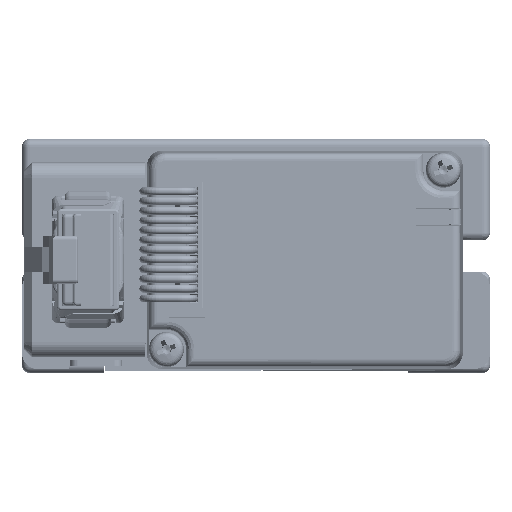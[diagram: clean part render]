
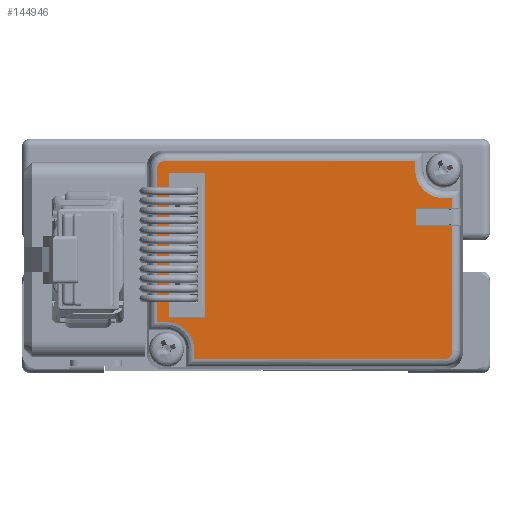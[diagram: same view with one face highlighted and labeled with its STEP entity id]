
A CAD part, front view. The second image highlights one B-rep face of the part: STEP entity #144946.
In plain terms, the highlighted planar face has unit normal (0, -1, 0) as drawn and (1, 0, 0) by its records, which use the part's own axes.
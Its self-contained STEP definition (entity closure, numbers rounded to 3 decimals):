
#643=(
BOUNDED_CURVE()
B_SPLINE_CURVE(3,(#287289,#287290,#287291,#287292),.UNSPECIFIED.,.F.,.F.)
B_SPLINE_CURVE_WITH_KNOTS((4,4),(2.357,3.927),
 .UNSPECIFIED.)
CURVE()
GEOMETRIC_REPRESENTATION_ITEM()
RATIONAL_B_SPLINE_CURVE((1.,0.805,0.805,1.))
REPRESENTATION_ITEM('')
);
#644=(
BOUNDED_CURVE()
B_SPLINE_CURVE(3,(#287398,#287399,#287400,#287401),.UNSPECIFIED.,.F.,.F.)
B_SPLINE_CURVE_WITH_KNOTS((4,4),(2.357,3.927),
 .UNSPECIFIED.)
CURVE()
GEOMETRIC_REPRESENTATION_ITEM()
RATIONAL_B_SPLINE_CURVE((1.,0.805,0.805,1.))
REPRESENTATION_ITEM('')
);
#6125=PLANE('',#185115);
#18112=LINE('',#287186,#34726);
#18114=LINE('',#287236,#34728);
#18116=LINE('',#287242,#34730);
#18118=LINE('',#287298,#34732);
#18120=LINE('',#287304,#34734);
#18122=LINE('',#287345,#34736);
#18124=LINE('',#287351,#34738);
#18126=LINE('',#287407,#34740);
#18128=LINE('',#287416,#34742);
#18200=LINE('',#287677,#34814);
#18206=LINE('',#287687,#34820);
#18210=LINE('',#287695,#34824);
#18213=LINE('',#287701,#34827);
#18216=LINE('',#287707,#34830);
#18219=LINE('',#287713,#34833);
#18222=LINE('',#287719,#34836);
#34726=VECTOR('',#210062,1000.);
#34728=VECTOR('',#210072,1000.);
#34730=VECTOR('',#210078,1000.);
#34732=VECTOR('',#210086,1000.);
#34734=VECTOR('',#210092,1000.);
#34736=VECTOR('',#210104,1000.);
#34738=VECTOR('',#210110,1000.);
#34740=VECTOR('',#210118,1000.);
#34742=VECTOR('',#210122,1000.);
#34814=VECTOR('',#210256,1000.);
#34820=VECTOR('',#210264,1000.);
#34824=VECTOR('',#210270,1000.);
#34827=VECTOR('',#210275,1000.);
#34830=VECTOR('',#210280,1000.);
#34833=VECTOR('',#210285,1000.);
#34836=VECTOR('',#210290,1000.);
#66735=ORIENTED_EDGE('',*,*,#96675,.F.);
#66736=ORIENTED_EDGE('',*,*,#96672,.F.);
#66737=ORIENTED_EDGE('',*,*,#96669,.F.);
#66738=ORIENTED_EDGE('',*,*,#96666,.F.);
#66739=ORIENTED_EDGE('',*,*,#96524,.T.);
#66740=ORIENTED_EDGE('',*,*,#96521,.T.);
#66741=ORIENTED_EDGE('',*,*,#96653,.F.);
#66742=ORIENTED_EDGE('',*,*,#96663,.F.);
#66743=ORIENTED_EDGE('',*,*,#96659,.F.);
#66744=ORIENTED_EDGE('',*,*,#96558,.T.);
#66745=ORIENTED_EDGE('',*,*,#96555,.T.);
#66746=ORIENTED_EDGE('',*,*,#96552,.T.);
#66747=ORIENTED_EDGE('',*,*,#96549,.T.);
#66748=ORIENTED_EDGE('',*,*,#96546,.T.);
#66749=ORIENTED_EDGE('',*,*,#96722,.T.);
#66750=ORIENTED_EDGE('',*,*,#96542,.T.);
#66751=ORIENTED_EDGE('',*,*,#96539,.T.);
#66752=ORIENTED_EDGE('',*,*,#96536,.T.);
#66753=ORIENTED_EDGE('',*,*,#96533,.T.);
#66754=ORIENTED_EDGE('',*,*,#96530,.T.);
#66755=ORIENTED_EDGE('',*,*,#96527,.T.);
#96521=EDGE_CURVE('',#113559,#113562,#18112,.T.);
#96524=EDGE_CURVE('',#113563,#113559,#120607,.T.);
#96527=EDGE_CURVE('',#113565,#113563,#18114,.T.);
#96530=EDGE_CURVE('',#113567,#113565,#18116,.T.);
#96533=EDGE_CURVE('',#113569,#113567,#643,.T.);
#96536=EDGE_CURVE('',#113571,#113569,#18118,.T.);
#96539=EDGE_CURVE('',#113573,#113571,#18120,.T.);
#96542=EDGE_CURVE('',#113576,#113573,#120612,.T.);
#96546=EDGE_CURVE('',#113577,#113580,#18122,.T.);
#96549=EDGE_CURVE('',#113581,#113577,#18124,.T.);
#96552=EDGE_CURVE('',#113583,#113581,#644,.T.);
#96555=EDGE_CURVE('',#113585,#113583,#18126,.T.);
#96558=EDGE_CURVE('',#113588,#113585,#18128,.T.);
#96653=EDGE_CURVE('',#113663,#113562,#18200,.T.);
#96659=EDGE_CURVE('',#113588,#113666,#18206,.T.);
#96663=EDGE_CURVE('',#113666,#113663,#18210,.T.);
#96666=EDGE_CURVE('',#113670,#113671,#18213,.T.);
#96669=EDGE_CURVE('',#113671,#113673,#18216,.T.);
#96672=EDGE_CURVE('',#113673,#113675,#18219,.T.);
#96675=EDGE_CURVE('',#113675,#113670,#18222,.T.);
#96722=EDGE_CURVE('',#113580,#113576,#120620,.T.);
#113559=VERTEX_POINT('',#287177);
#113562=VERTEX_POINT('',#287185);
#113563=VERTEX_POINT('',#287224);
#113565=VERTEX_POINT('',#287233);
#113567=VERTEX_POINT('',#287239);
#113569=VERTEX_POINT('',#287280);
#113571=VERTEX_POINT('',#287295);
#113573=VERTEX_POINT('',#287301);
#113576=VERTEX_POINT('',#287331);
#113577=VERTEX_POINT('',#287339);
#113580=VERTEX_POINT('',#287344);
#113581=VERTEX_POINT('',#287348);
#113583=VERTEX_POINT('',#287389);
#113585=VERTEX_POINT('',#287404);
#113588=VERTEX_POINT('',#287414);
#113663=VERTEX_POINT('',#287678);
#113666=VERTEX_POINT('',#287688);
#113670=VERTEX_POINT('',#287700);
#113671=VERTEX_POINT('',#287702);
#113673=VERTEX_POINT('',#287708);
#113675=VERTEX_POINT('',#287714);
#120607=CIRCLE('',#185041,1.);
#120612=CIRCLE('',#185052,1.);
#120620=CIRCLE('',#185116,1.);
#126929=EDGE_LOOP('',(#66735,#66736,#66737,#66738));
#126930=EDGE_LOOP('',(#66739,#66740,#66741,#66742,#66743,#66744,#66745,
#66746,#66747,#66748,#66749,#66750,#66751,#66752,#66753,#66754,#66755));
#135392=FACE_BOUND('',#126929,.T.);
#135393=FACE_BOUND('',#126930,.T.);
#144946=ADVANCED_FACE('',(#135392,#135393),#6125,.T.);
#185041=AXIS2_PLACEMENT_3D('',#287230,#210065,#210066);
#185052=AXIS2_PLACEMENT_3D('',#287336,#210095,#210096);
#185115=AXIS2_PLACEMENT_3D('',#287801,#210367,#210368);
#185116=AXIS2_PLACEMENT_3D('',#287802,#210369,#210370);
#210062=DIRECTION('',(0.,0.,1.));
#210065=DIRECTION('',(1.,0.,0.));
#210066=DIRECTION('',(0.,0.,-1.));
#210072=DIRECTION('',(0.,1.,0.));
#210078=DIRECTION('',(0.,0.,-1.));
#210086=DIRECTION('',(0.,1.,0.));
#210092=DIRECTION('',(0.,0.,-1.));
#210095=DIRECTION('',(1.,0.,0.));
#210096=DIRECTION('',(0.,-0.707,0.707));
#210104=DIRECTION('',(0.,-1.,0.));
#210110=DIRECTION('',(0.,0.,1.));
#210118=DIRECTION('',(0.,-1.,0.));
#210122=DIRECTION('',(0.,0.,1.));
#210256=DIRECTION('',(0.,1.,0.));
#210264=DIRECTION('',(0.,-1.,0.));
#210270=DIRECTION('',(0.,0.,-1.));
#210275=DIRECTION('',(0.,0.,-1.));
#210280=DIRECTION('',(0.,1.,0.));
#210285=DIRECTION('',(0.,0.,1.));
#210290=DIRECTION('',(0.,-1.,0.));
#210367=DIRECTION('',(1.,0.,0.));
#210368=DIRECTION('',(0.,0.,-1.));
#210369=DIRECTION('',(1.,0.,0.));
#210370=DIRECTION('',(0.,0.,1.));
#287177=CARTESIAN_POINT('',(13.,39.185,-25.686));
#287185=CARTESIAN_POINT('',(13.,39.185,-9.6));
#287186=CARTESIAN_POINT('',(13.,39.185,-9.6));
#287224=CARTESIAN_POINT('',(13.,38.186,-26.685));
#287230=CARTESIAN_POINT('',(13.,38.186,-25.686));
#287233=CARTESIAN_POINT('',(13.,6.074,-26.685));
#287236=CARTESIAN_POINT('',(13.,38.16,-26.685));
#287239=CARTESIAN_POINT('',(13.,6.074,-25.525));
#287242=CARTESIAN_POINT('',(13.,6.074,-27.66));
#287280=CARTESIAN_POINT('',(13.,2.475,-21.926));
#287289=CARTESIAN_POINT('',(13.,2.475,-21.926));
#287290=CARTESIAN_POINT('',(13.,4.584,-21.926));
#287291=CARTESIAN_POINT('',(13.,6.074,-23.416));
#287292=CARTESIAN_POINT('',(13.,6.074,-25.525));
#287295=CARTESIAN_POINT('',(13.,1.315,-21.926));
#287298=CARTESIAN_POINT('',(13.,2.501,-21.926));
#287301=CARTESIAN_POINT('',(13.,1.315,-2.314));
#287304=CARTESIAN_POINT('',(13.,1.315,-22.9));
#287331=CARTESIAN_POINT('',(13.,1.607,-1.607));
#287336=CARTESIAN_POINT('',(13.,2.314,-2.314));
#287339=CARTESIAN_POINT('',(13.,34.426,-1.315));
#287344=CARTESIAN_POINT('',(13.,2.314,-1.315));
#287345=CARTESIAN_POINT('',(13.,0.,-1.315));
#287348=CARTESIAN_POINT('',(13.,34.426,-2.475));
#287351=CARTESIAN_POINT('',(13.,34.426,-0.34));
#287389=CARTESIAN_POINT('',(13.,38.025,-6.074));
#287398=CARTESIAN_POINT('',(13.,38.025,-6.074));
#287399=CARTESIAN_POINT('',(13.,35.916,-6.074));
#287400=CARTESIAN_POINT('',(13.,34.426,-4.584));
#287401=CARTESIAN_POINT('',(13.,34.426,-2.475));
#287404=CARTESIAN_POINT('',(13.,39.185,-6.074));
#287407=CARTESIAN_POINT('',(13.,37.999,-6.074));
#287414=CARTESIAN_POINT('',(13.,39.185,-7.4));
#287416=CARTESIAN_POINT('',(13.,39.185,-5.1));
#287677=CARTESIAN_POINT('',(13.,40.5,-9.6));
#287678=CARTESIAN_POINT('',(13.,34.5,-9.6));
#287687=CARTESIAN_POINT('',(13.,40.5,-7.4));
#287688=CARTESIAN_POINT('',(13.,34.5,-7.4));
#287695=CARTESIAN_POINT('',(13.,34.5,-7.4));
#287700=CARTESIAN_POINT('',(13.,2.8,-2.8));
#287701=CARTESIAN_POINT('',(13.,2.8,-2.8));
#287702=CARTESIAN_POINT('',(13.,2.8,-21.4));
#287707=CARTESIAN_POINT('',(13.,7.5,-21.4));
#287708=CARTESIAN_POINT('',(13.,7.5,-21.4));
#287713=CARTESIAN_POINT('',(13.,7.5,-2.8));
#287714=CARTESIAN_POINT('',(13.,7.5,-2.8));
#287719=CARTESIAN_POINT('',(13.,7.5,-2.8));
#287801=CARTESIAN_POINT('',(13.,0.,0.));
#287802=CARTESIAN_POINT('',(13.,2.314,-2.314));
